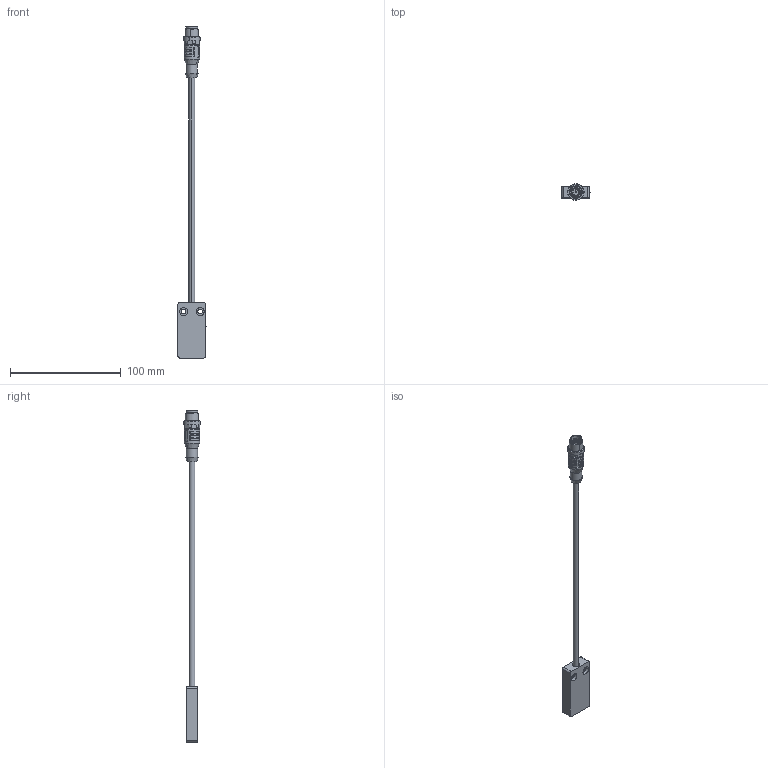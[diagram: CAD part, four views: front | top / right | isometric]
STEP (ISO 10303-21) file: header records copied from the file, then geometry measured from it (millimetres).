
FILE_DESCRIPTION((''),'2;1');
FILE_NAME('ASM0001_ASM','2025-01-08T09:58:27',('Rudolf.Poettker'),(''),'CREO PARAMETRIC BY PTC INC, 2022124','CREO PARAMETRIC BY PTC INC, 2022124','');
FILE_SCHEMA(('AUTOMOTIVE_DESIGN { 1 0 10303 214 1 1 1 1 }'));
Length unit declared in the file: millimetre
Products named in the file (3): 6490650395_SW0001; 4139100185; ASM0001_ASM
Assembly tree (2 placements, depth 2):
  ASM0001_ASM
    6490650395_SW0001
    4139100185
Bounding box: 25.35 x 14.98 x 300 mm (x, y, z)
Volume: 21338.6 mm3; surface area: 10454.4 mm2
Topology: 2 solids, 2 shells, 385 faces, 950 edges, 592 vertices
Faces by surface type: plane 121, cylinder 109, extrusion 66, torus 29, bspline 24, cone 18, sphere 18
Entity records: 20285 total; most frequent: CARTESIAN_POINT 7250, ORIENTED_EDGE 1860, DIRECTION 1705, PRESENTATION_STYLE_ASSIGNMENT 946, STYLED_ITEM 943, CURVE_STYLE 941, EDGE_CURVE 930, AXIS2_PLACEMENT_3D 622
